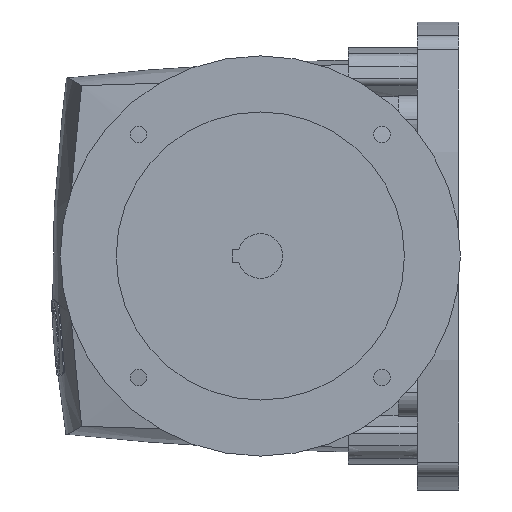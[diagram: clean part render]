
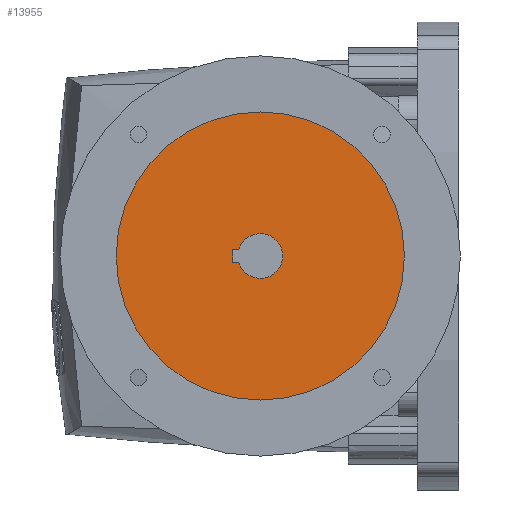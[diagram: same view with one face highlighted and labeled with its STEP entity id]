
A CAD part, left-side view. The second image highlights one B-rep face of the part: STEP entity #13955.
In plain terms, the highlighted planar face has unit normal (-1, 0, 0).
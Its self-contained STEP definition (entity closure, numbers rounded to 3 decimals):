
#4339=CARTESIAN_POINT('',(-164.,124.,0.));
#4340=DIRECTION('',(-1.,0.,0.));
#4341=DIRECTION('',(0.,-1.,0.));
#4342=AXIS2_PLACEMENT_3D('',#4339,#4340,#4341);
#4344=CARTESIAN_POINT('',(-164.,124.,0.));
#4345=DIRECTION('',(-1.,0.,0.));
#4346=DIRECTION('',(0.,1.,0.));
#4347=AXIS2_PLACEMENT_3D('',#4344,#4345,#4346);
#4349=DIRECTION('',(0.,1.,0.));
#4350=VECTOR('',#4349,3.884);
#4351=CARTESIAN_POINT('',(-164.,137.416,4.));
#4352=LINE('',#4351,#4350);
#4353=DIRECTION('',(0.,0.,-1.));
#4354=VECTOR('',#4353,8.);
#4355=CARTESIAN_POINT('',(-164.,141.3,4.));
#4356=LINE('',#4355,#4354);
#4357=DIRECTION('',(0.,-1.,0.));
#4358=VECTOR('',#4357,3.884);
#4359=CARTESIAN_POINT('',(-164.,141.3,-4.));
#4360=LINE('',#4359,#4358);
#4361=CARTESIAN_POINT('',(-164.,124.,0.));
#4362=DIRECTION('',(-1.,0.,0.));
#4363=DIRECTION('',(0.,0.958,-0.286));
#4364=AXIS2_PLACEMENT_3D('',#4361,#4362,#4363);
#8673=CARTESIAN_POINT('',(-164.,137.416,4.));
#8674=VERTEX_POINT('',#8673);
#8675=CARTESIAN_POINT('',(-164.,141.3,4.));
#8676=VERTEX_POINT('',#8675);
#8677=CARTESIAN_POINT('',(-164.,141.3,-4.));
#8678=VERTEX_POINT('',#8677);
#8679=CARTESIAN_POINT('',(-164.,137.416,-4.));
#8680=VERTEX_POINT('',#8679);
#8923=CARTESIAN_POINT('',(-164.,34.012,0.));
#8924=CARTESIAN_POINT('',(-164.,213.988,0.));
#8925=VERTEX_POINT('',#8923);
#8926=VERTEX_POINT('',#8924);
#13936=CARTESIAN_POINT('',(-164.,0.,0.));
#13937=DIRECTION('',(-1.,0.,0.));
#13938=DIRECTION('',(0.,-1.,0.));
#13939=AXIS2_PLACEMENT_3D('',#13936,#13937,#13938);
#13940=PLANE('',#13939);
#13941=ORIENTED_EDGE('',*,*,#13905,.F.);
#13942=ORIENTED_EDGE('',*,*,#13926,.F.);
#13943=EDGE_LOOP('',(#13941,#13942));
#13944=FACE_OUTER_BOUND('',#13943,.F.);
#13946=ORIENTED_EDGE('',*,*,#13945,.T.);
#13948=ORIENTED_EDGE('',*,*,#13947,.T.);
#13950=ORIENTED_EDGE('',*,*,#13949,.T.);
#13952=ORIENTED_EDGE('',*,*,#13951,.T.);
#13953=EDGE_LOOP('',(#13946,#13948,#13950,#13952));
#13954=FACE_BOUND('',#13953,.F.);
#13955=ADVANCED_FACE('',(#13944,#13954),#13940,.T.);
#4343=CIRCLE('',#4342,89.988);
#4348=CIRCLE('',#4347,89.988);
#4365=CIRCLE('',#4364,14.);
#13905=EDGE_CURVE('',#8925,#8926,#4343,.T.);
#13926=EDGE_CURVE('',#8926,#8925,#4348,.T.);
#13945=EDGE_CURVE('',#8674,#8676,#4352,.T.);
#13947=EDGE_CURVE('',#8676,#8678,#4356,.T.);
#13949=EDGE_CURVE('',#8678,#8680,#4360,.T.);
#13951=EDGE_CURVE('',#8680,#8674,#4365,.T.);
